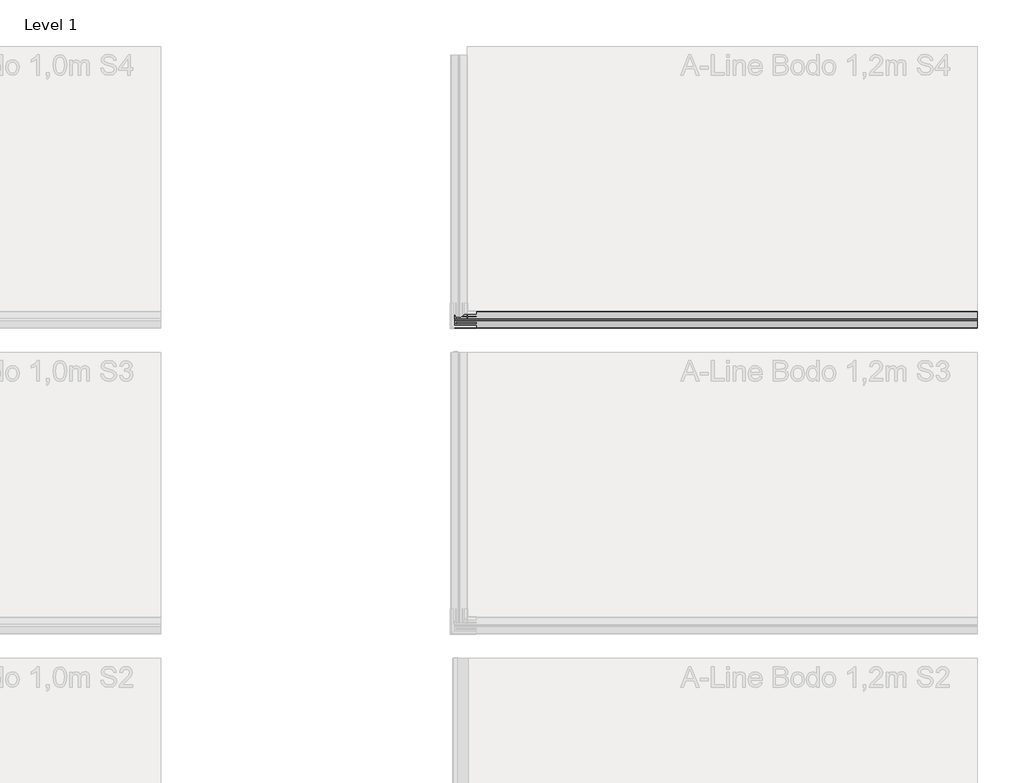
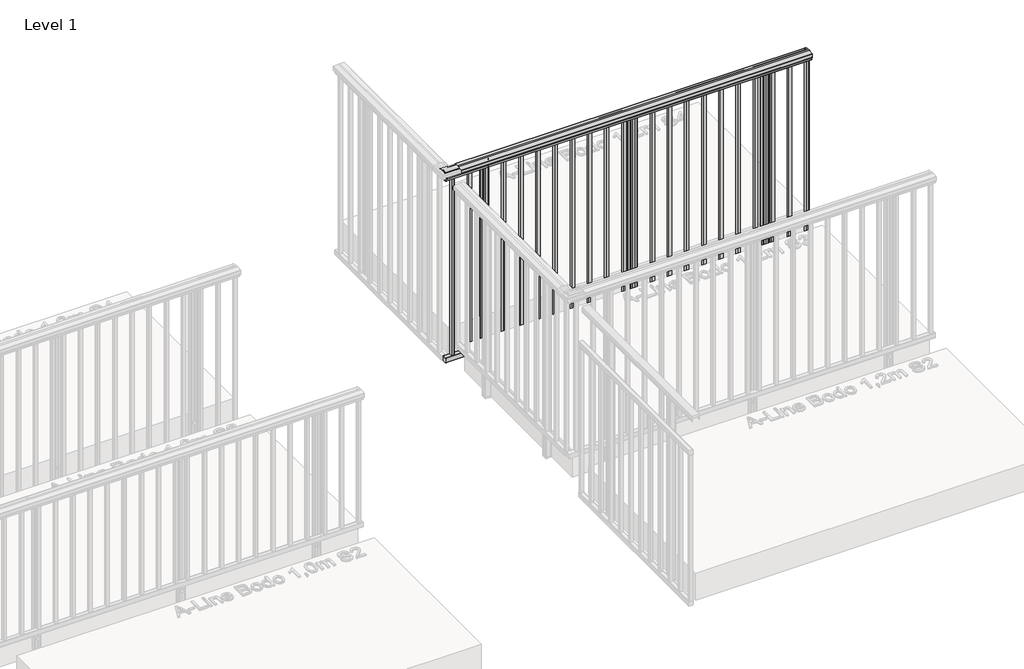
# One storey, part 15 of 66: 1 railing.
"""IFC4 building model written with IfcOpenShell, lengths in millimetres."""

from ifc_helpers import new_model, si_unit, point, frame, frame_2d, origin, place, context, project, spatial, polyline, circle_curve, trimmed, segment, composite_curve, outline, extrude, element, save

model = new_model("IFC4")

# Units and contexts
model_context = context("Model", 3, world=origin())
ifc_project = project(units=[si_unit("LENGTHUNIT", "METRE", prefix="MILLI")], contexts=[model_context])

# Site, building, storey
site = spatial("IfcSite", under=ifc_project)
building = spatial("IfcBuilding", under=site)
storey = spatial("IfcBuildingStorey", under=building, Name="Level 1", Elevation=0.0)

# Railing
placement = place(None, origin())
element("IfcRailing", 1, ObjectType="A-Line Bodo 1,2m S4", at=placement, inside=storey, context=model_context, shape_type="SweptSolid", body=[
    extrude(outline(composite_curve([segment(polyline([(-13150.7565959, 1170.6825033), (-13150.7565959, 1191.2139911)]), True, "CONTINUOUS"), segment(trimmed(circle_curve(frame_2d((-13147.7565959, 1191.2139911)), 3.0), [point((-13150.7565959, 1191.2139911))], [point((-13148.8230873, 1194.0180233))], False, "CARTESIAN"), True, "CONTINUOUS"), segment(trimmed(circle_curve(frame_2d((-13116.2565959, 1108.3938053)), 91.6083133), [point((-13148.8230873, 1194.0180233))], [point((-13116.2565959, 1200.0021186))], False, "CARTESIAN"), True, "CONTINUOUS"), segment(polyline([(-13116.2565959, 1200.0021186), (-13103.2565959, 1200.0021186)]), True, "CONTINUOUS"), segment(trimmed(circle_curve(frame_2d((-13103.2565959, 1108.3938053)), 91.6083133), [point((-13103.2565959, 1200.0021186))], [point((-13070.6901046, 1194.0180233))], False, "CARTESIAN"), True, "CONTINUOUS"), segment(trimmed(circle_curve(frame_2d((-13071.7565959, 1191.2139911)), 3.0), [point((-13070.6901046, 1194.0180233))], [point((-13068.7565959, 1191.2139911))], False, "CARTESIAN"), True, "CONTINUOUS"), segment(polyline([(-13068.7565959, 1191.2139911), (-13068.7967883, 1170.5325033), (-13069.4115714, 1169.9177203), (-13068.7565959, 1169.2627449), (-13068.7565959, 1165.5021186)]), True, "CONTINUOUS"), segment(trimmed(circle_curve(frame_2d((-13069.2565959, 1165.5021186)), 0.5), [point((-13068.7565959, 1165.5021186))], [point((-13069.2565959, 1165.0021186))], False, "CARTESIAN"), True, "CONTINUOUS"), segment(polyline([(-13069.2565959, 1165.0021186), (-13070.2565959, 1165.0021186), (-13070.2565959, 1179.5021186)]), True, "CONTINUOUS"), segment(trimmed(circle_curve(frame_2d((-13070.7565959, 1179.5021186)), 0.5), [point((-13070.2565959, 1179.5021186))], [point((-13070.7565959, 1180.0021186))], True, "CARTESIAN"), True, "CONTINUOUS"), segment(polyline([(-13070.7565959, 1180.0021186), (-13148.7565959, 1180.0021186)]), True, "CONTINUOUS"), segment(trimmed(circle_curve(frame_2d((-13148.7565959, 1179.5021186)), 0.5), [point((-13148.7565959, 1180.0021186))], [point((-13149.2565959, 1179.5021186))], True, "CARTESIAN"), True, "CONTINUOUS"), segment(polyline([(-13149.2565959, 1179.5021186), (-13149.2565959, 1165.0021186), (-13150.2565959, 1165.0021186)]), True, "CONTINUOUS"), segment(trimmed(circle_curve(frame_2d((-13150.2565959, 1165.5021186)), 0.5), [point((-13150.2565959, 1165.0021186))], [point((-13150.7565959, 1165.5021186))], False, "CARTESIAN"), True, "CONTINUOUS"), segment(polyline([(-13150.7565959, 1165.5021186), (-13150.7164036, 1169.4717338), (-13150.131115, 1170.0570224), (-13150.7565959, 1170.6825033)]), True, "CONTINUOUS")], self_intersect=False)), frame((8444.0547322, 0.0, 0.0), z_axis=(1.0, 0.0, 0.0), x_axis=(0.0, 1.0, 0.0)), (0.0, 0.0, 1.0), 2560.0),
    extrude(outline(composite_curve([segment(trimmed(circle_curve(frame_2d((-13139.305892, 1177.0)), 1.0), [point((-13140.305892, 1177.0))], [point((-13139.305892, 1178.0))], False, "CARTESIAN"), True, "CONTINUOUS"), segment(polyline([(-13139.305892, 1178.0), (-13112.205892, 1178.0)]), True, "CONTINUOUS"), segment(trimmed(circle_curve(frame_2d((-13112.205892, 1177.0)), 1.0), [point((-13112.205892, 1178.0))], [point((-13111.205892, 1177.0))], False, "CARTESIAN"), True, "CONTINUOUS"), segment(polyline([(-13111.205892, 1177.0), (-13111.205892, 1144.8)]), True, "CONTINUOUS"), segment(trimmed(circle_curve(frame_2d((-13112.205892, 1144.8)), 1.0), [point((-13111.205892, 1144.8))], [point((-13112.205892, 1143.8))], False, "CARTESIAN"), True, "CONTINUOUS"), segment(polyline([(-13112.205892, 1143.8), (-13139.305892, 1143.8)]), True, "CONTINUOUS"), segment(trimmed(circle_curve(frame_2d((-13139.305892, 1144.8)), 1.0), [point((-13139.305892, 1143.8))], [point((-13140.305892, 1144.8))], False, "CARTESIAN"), True, "CONTINUOUS"), segment(polyline([(-13140.305892, 1144.8), (-13140.305892, 1177.0)]), True, "CONTINUOUS")], self_intersect=False)), frame((8444.0547322, 0.0, 0.0), z_axis=(1.0, 0.0, 0.0), x_axis=(0.0, 1.0, 0.0)), (0.0, 0.0, 1.0), 2560.0),
    extrude(outline(composite_curve([segment(polyline([(-13139.305892, -165.8), (-13112.205892, -165.8)]), True, "CONTINUOUS"), segment(trimmed(circle_curve(frame_2d((-13112.205892, -166.8)), 1.0), [point((-13112.205892, -165.8))], [point((-13111.205892, -166.8))], False, "CARTESIAN"), True, "CONTINUOUS"), segment(polyline([(-13111.205892, -166.8), (-13111.205892, -199.0)]), True, "CONTINUOUS"), segment(trimmed(circle_curve(frame_2d((-13112.205892, -199.0)), 1.0), [point((-13111.205892, -199.0))], [point((-13112.205892, -200.0))], False, "CARTESIAN"), True, "CONTINUOUS"), segment(polyline([(-13112.205892, -200.0), (-13139.305892, -200.0)]), True, "CONTINUOUS"), segment(trimmed(circle_curve(frame_2d((-13139.305892, -199.0)), 1.0), [point((-13139.305892, -200.0))], [point((-13140.305892, -199.0))], False, "CARTESIAN"), True, "CONTINUOUS"), segment(polyline([(-13140.305892, -199.0), (-13140.305892, -166.8)]), True, "CONTINUOUS"), segment(trimmed(circle_curve(frame_2d((-13139.305892, -166.8)), 1.0), [point((-13140.305892, -166.8))], [point((-13139.305892, -165.8))], False, "CARTESIAN"), True, "CONTINUOUS")], self_intersect=False)), frame((8444.0547322, 0.0, 0.0), z_axis=(1.0, 0.0, 0.0), x_axis=(0.0, 1.0, 0.0)), (0.0, 0.0, 1.0), 2560.0),
    extrude(outline(polyline([(10969.0547322, -13135.755892), (10969.0547322, -13115.755892), (10989.0547322, -13115.755892), (10989.0547322, -13135.755892), (10969.0547322, -13135.755892)]), holes=[polyline([(10971.0547322, -13133.755892), (10987.0547322, -13133.755892), (10987.0547322, -13117.755892), (10971.0547322, -13117.755892), (10971.0547322, -13133.755892)])]), frame((0.0, 0.0, -166.0), z_axis=(0.0, 0.0, 1.0), x_axis=(1.0, 0.0, 0.0)), (0.0, 0.0, 1.0), 1310.0),
    extrude(outline(polyline([(10849.0547322, -13135.755892), (10849.0547322, -13115.755892), (10869.0547322, -13115.755892), (10869.0547322, -13135.755892), (10849.0547322, -13135.755892)]), holes=[polyline([(10851.0547322, -13133.755892), (10867.0547322, -13133.755892), (10867.0547322, -13117.755892), (10851.0547322, -13117.755892), (10851.0547322, -13133.755892)])]), frame((0.0, 0.0, -166.0), z_axis=(0.0, 0.0, 1.0), x_axis=(1.0, 0.0, 0.0)), (0.0, 0.0, 1.0), 1310.0),
    extrude(outline(polyline([(10729.0547322, -13135.755892), (10729.0547322, -13115.755892), (10749.0547322, -13115.755892), (10749.0547322, -13135.755892), (10729.0547322, -13135.755892)]), holes=[polyline([(10731.0547322, -13133.755892), (10747.0547322, -13133.755892), (10747.0547322, -13117.755892), (10731.0547322, -13117.755892), (10731.0547322, -13133.755892)])]), frame((0.0, 0.0, -166.0), z_axis=(0.0, 0.0, 1.0), x_axis=(1.0, 0.0, 0.0)), (0.0, 0.0, 1.0), 1310.0),
    extrude(outline(polyline([(10609.0547322, -13135.755892), (10609.0547322, -13115.755892), (10629.0547322, -13115.755892), (10629.0547322, -13135.755892), (10609.0547322, -13135.755892)]), holes=[polyline([(10611.0547322, -13133.755892), (10627.0547322, -13133.755892), (10627.0547322, -13117.755892), (10611.0547322, -13117.755892), (10611.0547322, -13133.755892)])]), frame((0.0, 0.0, -166.0), z_axis=(0.0, 0.0, 1.0), x_axis=(1.0, 0.0, 0.0)), (0.0, 0.0, 1.0), 1310.0),
    extrude(outline(polyline([(10489.0547322, -13135.755892), (10489.0547322, -13115.755892), (10509.0547322, -13115.755892), (10509.0547322, -13135.755892), (10489.0547322, -13135.755892)]), holes=[polyline([(10491.0547322, -13133.755892), (10507.0547322, -13133.755892), (10507.0547322, -13117.755892), (10491.0547322, -13117.755892), (10491.0547322, -13133.755892)])]), frame((0.0, 0.0, -166.0), z_axis=(0.0, 0.0, 1.0), x_axis=(1.0, 0.0, 0.0)), (0.0, 0.0, 1.0), 1310.0),
    extrude(outline(polyline([(10369.0547322, -13135.755892), (10369.0547322, -13115.755892), (10389.0547322, -13115.755892), (10389.0547322, -13135.755892), (10369.0547322, -13135.755892)]), holes=[polyline([(10371.0547322, -13133.755892), (10387.0547322, -13133.755892), (10387.0547322, -13117.755892), (10371.0547322, -13117.755892), (10371.0547322, -13133.755892)])]), frame((0.0, 0.0, -166.0), z_axis=(0.0, 0.0, 1.0), x_axis=(1.0, 0.0, 0.0)), (0.0, 0.0, 1.0), 1310.0),
    extrude(outline(polyline([(10249.0547322, -13135.755892), (10249.0547322, -13115.755892), (10269.0547322, -13115.755892), (10269.0547322, -13135.755892), (10249.0547322, -13135.755892)]), holes=[polyline([(10251.0547322, -13133.755892), (10267.0547322, -13133.755892), (10267.0547322, -13117.755892), (10251.0547322, -13117.755892), (10251.0547322, -13133.755892)])]), frame((0.0, 0.0, -166.0), z_axis=(0.0, 0.0, 1.0), x_axis=(1.0, 0.0, 0.0)), (0.0, 0.0, 1.0), 1310.0),
    extrude(outline(polyline([(10129.0547322, -13135.755892), (10129.0547322, -13115.755892), (10149.0547322, -13115.755892), (10149.0547322, -13135.755892), (10129.0547322, -13135.755892)]), holes=[polyline([(10131.0547322, -13133.755892), (10147.0547322, -13133.755892), (10147.0547322, -13117.755892), (10131.0547322, -13117.755892), (10131.0547322, -13133.755892)])]), frame((0.0, 0.0, -166.0), z_axis=(0.0, 0.0, 1.0), x_axis=(1.0, 0.0, 0.0)), (0.0, 0.0, 1.0), 1310.0),
    extrude(outline(polyline([(10009.0547322, -13135.755892), (10009.0547322, -13115.755892), (10029.0547322, -13115.755892), (10029.0547322, -13135.755892), (10009.0547322, -13135.755892)]), holes=[polyline([(10011.0547322, -13133.755892), (10027.0547322, -13133.755892), (10027.0547322, -13117.755892), (10011.0547322, -13117.755892), (10011.0547322, -13133.755892)])]), frame((0.0, 0.0, -166.0), z_axis=(0.0, 0.0, 1.0), x_axis=(1.0, 0.0, 0.0)), (0.0, 0.0, 1.0), 1310.0),
    extrude(outline(polyline([(9889.0547322, -13135.755892), (9889.0547322, -13115.755892), (9909.0547322, -13115.755892), (9909.0547322, -13135.755892), (9889.0547322, -13135.755892)]), holes=[polyline([(9891.0547322, -13133.755892), (9907.0547322, -13133.755892), (9907.0547322, -13117.755892), (9891.0547322, -13117.755892), (9891.0547322, -13133.755892)])]), frame((0.0, 0.0, -166.0), z_axis=(0.0, 0.0, 1.0), x_axis=(1.0, 0.0, 0.0)), (0.0, 0.0, 1.0), 1310.0),
    extrude(outline(polyline([(9769.0547322, -13135.755892), (9769.0547322, -13115.755892), (9789.0547322, -13115.755892), (9789.0547322, -13135.755892), (9769.0547322, -13135.755892)]), holes=[polyline([(9771.0547322, -13133.755892), (9787.0547322, -13133.755892), (9787.0547322, -13117.755892), (9771.0547322, -13117.755892), (9771.0547322, -13133.755892)])]), frame((0.0, 0.0, -166.0), z_axis=(0.0, 0.0, 1.0), x_axis=(1.0, 0.0, 0.0)), (0.0, 0.0, 1.0), 1310.0),
    extrude(outline(polyline([(9689.0547322, -13135.755892), (9689.0547322, -13115.755892), (9709.0547322, -13115.755892), (9709.0547322, -13135.755892), (9689.0547322, -13135.755892)]), holes=[polyline([(9691.0547322, -13133.755892), (9707.0547322, -13133.755892), (9707.0547322, -13117.755892), (9691.0547322, -13117.755892), (9691.0547322, -13133.755892)])]), frame((0.0, 0.0, -166.0), z_axis=(0.0, 0.0, 1.0), x_axis=(1.0, 0.0, 0.0)), (0.0, 0.0, 1.0), 1310.0),
    extrude(outline(polyline([(9569.0547322, -13135.755892), (9569.0547322, -13115.755892), (9589.0547322, -13115.755892), (9589.0547322, -13135.755892), (9569.0547322, -13135.755892)]), holes=[polyline([(9571.0547322, -13133.755892), (9587.0547322, -13133.755892), (9587.0547322, -13117.755892), (9571.0547322, -13117.755892), (9571.0547322, -13133.755892)])]), frame((0.0, 0.0, -166.0), z_axis=(0.0, 0.0, 1.0), x_axis=(1.0, 0.0, 0.0)), (0.0, 0.0, 1.0), 1310.0),
    extrude(outline(polyline([(9449.0547322, -13135.755892), (9449.0547322, -13115.755892), (9469.0547322, -13115.755892), (9469.0547322, -13135.755892), (9449.0547322, -13135.755892)]), holes=[polyline([(9451.0547322, -13133.755892), (9467.0547322, -13133.755892), (9467.0547322, -13117.755892), (9451.0547322, -13117.755892), (9451.0547322, -13133.755892)])]), frame((0.0, 0.0, -166.0), z_axis=(0.0, 0.0, 1.0), x_axis=(1.0, 0.0, 0.0)), (0.0, 0.0, 1.0), 1310.0),
    extrude(outline(polyline([(9329.0547322, -13135.755892), (9329.0547322, -13115.755892), (9349.0547322, -13115.755892), (9349.0547322, -13135.755892), (9329.0547322, -13135.755892)]), holes=[polyline([(9331.0547322, -13133.755892), (9347.0547322, -13133.755892), (9347.0547322, -13117.755892), (9331.0547322, -13117.755892), (9331.0547322, -13133.755892)])]), frame((0.0, 0.0, -166.0), z_axis=(0.0, 0.0, 1.0), x_axis=(1.0, 0.0, 0.0)), (0.0, 0.0, 1.0), 1310.0),
    extrude(outline(polyline([(9209.0547322, -13135.755892), (9209.0547322, -13115.755892), (9229.0547322, -13115.755892), (9229.0547322, -13135.755892), (9209.0547322, -13135.755892)]), holes=[polyline([(9211.0547322, -13133.755892), (9227.0547322, -13133.755892), (9227.0547322, -13117.755892), (9211.0547322, -13117.755892), (9211.0547322, -13133.755892)])]), frame((0.0, 0.0, -166.0), z_axis=(0.0, 0.0, 1.0), x_axis=(1.0, 0.0, 0.0)), (0.0, 0.0, 1.0), 1310.0),
    extrude(outline(polyline([(9089.0547322, -13135.755892), (9089.0547322, -13115.755892), (9109.0547322, -13115.755892), (9109.0547322, -13135.755892), (9089.0547322, -13135.755892)]), holes=[polyline([(9091.0547322, -13133.755892), (9107.0547322, -13133.755892), (9107.0547322, -13117.755892), (9091.0547322, -13117.755892), (9091.0547322, -13133.755892)])]), frame((0.0, 0.0, -166.0), z_axis=(0.0, 0.0, 1.0), x_axis=(1.0, 0.0, 0.0)), (0.0, 0.0, 1.0), 1310.0),
    extrude(outline(polyline([(8969.0547322, -13135.755892), (8969.0547322, -13115.755892), (8989.0547322, -13115.755892), (8989.0547322, -13135.755892), (8969.0547322, -13135.755892)]), holes=[polyline([(8971.0547322, -13133.755892), (8987.0547322, -13133.755892), (8987.0547322, -13117.755892), (8971.0547322, -13117.755892), (8971.0547322, -13133.755892)])]), frame((0.0, 0.0, -166.0), z_axis=(0.0, 0.0, 1.0), x_axis=(1.0, 0.0, 0.0)), (0.0, 0.0, 1.0), 1310.0),
    extrude(outline(polyline([(8849.0547322, -13135.755892), (8849.0547322, -13115.755892), (8869.0547322, -13115.755892), (8869.0547322, -13135.755892), (8849.0547322, -13135.755892)]), holes=[polyline([(8851.0547322, -13133.755892), (8867.0547322, -13133.755892), (8867.0547322, -13117.755892), (8851.0547322, -13117.755892), (8851.0547322, -13133.755892)])]), frame((0.0, 0.0, -166.0), z_axis=(0.0, 0.0, 1.0), x_axis=(1.0, 0.0, 0.0)), (0.0, 0.0, 1.0), 1310.0),
    extrude(outline(polyline([(8729.0547322, -13135.755892), (8729.0547322, -13115.755892), (8749.0547322, -13115.755892), (8749.0547322, -13135.755892), (8729.0547322, -13135.755892)]), holes=[polyline([(8731.0547322, -13133.755892), (8747.0547322, -13133.755892), (8747.0547322, -13117.755892), (8731.0547322, -13117.755892), (8731.0547322, -13133.755892)])]), frame((0.0, 0.0, -166.0), z_axis=(0.0, 0.0, 1.0), x_axis=(1.0, 0.0, 0.0)), (0.0, 0.0, 1.0), 1310.0),
    extrude(outline(polyline([(8609.0547322, -13135.755892), (8609.0547322, -13115.755892), (8629.0547322, -13115.755892), (8629.0547322, -13135.755892), (8609.0547322, -13135.755892)]), holes=[polyline([(8611.0547322, -13133.755892), (8627.0547322, -13133.755892), (8627.0547322, -13117.755892), (8611.0547322, -13117.755892), (8611.0547322, -13133.755892)])]), frame((0.0, 0.0, -166.0), z_axis=(0.0, 0.0, 1.0), x_axis=(1.0, 0.0, 0.0)), (0.0, 0.0, 1.0), 1310.0),
    extrude(outline(polyline([(8489.0547322, -13135.755892), (8489.0547322, -13115.755892), (8509.0547322, -13115.755892), (8509.0547322, -13135.755892), (8489.0547322, -13135.755892)]), holes=[polyline([(8491.0547322, -13133.755892), (8507.0547322, -13133.755892), (8507.0547322, -13117.755892), (8491.0547322, -13117.755892), (8491.0547322, -13133.755892)])]), frame((0.0, 0.0, -166.0), z_axis=(0.0, 0.0, 1.0), x_axis=(1.0, 0.0, 0.0)), (0.0, 0.0, 1.0), 1310.0),
    extrude(outline(composite_curve([segment(polyline([(9754.8575193, -13070.755892), (9771.8808192, -13070.755892)]), True, "CONTINUOUS"), segment(trimmed(circle_curve(frame_2d((9771.8808192, -13072.9298051)), 2.173913), [point((9771.8808192, -13070.755892))], [point((9774.0547322, -13072.9298051))], False, "CARTESIAN"), True, "CONTINUOUS"), segment(polyline([(9774.0547322, -13072.9298051), (9774.0547322, -13108.581979)]), True, "CONTINUOUS"), segment(trimmed(circle_curve(frame_2d((9771.8808192, -13108.581979)), 2.173913), [point((9774.0547322, -13108.581979))], [point((9771.8808192, -13110.755892))], False, "CARTESIAN"), True, "CONTINUOUS"), segment(polyline([(9771.8808192, -13110.755892), (9754.8225694, -13110.7209421), (9754.0547322, -13109.953105), (9753.2868951, -13110.7209421), (9736.2286453, -13110.755892)]), True, "CONTINUOUS"), segment(trimmed(circle_curve(frame_2d((9736.2286453, -13108.581979)), 2.173913), [point((9736.2286453, -13110.755892))], [point((9734.0547322, -13108.581979))], False, "CARTESIAN"), True, "CONTINUOUS"), segment(polyline([(9734.0547322, -13108.581979), (9734.0547322, -13072.9298051)]), True, "CONTINUOUS"), segment(trimmed(circle_curve(frame_2d((9736.2286453, -13072.9298051)), 2.173913), [point((9734.0547322, -13072.9298051))], [point((9736.2286452, -13070.755892))], False, "CARTESIAN"), True, "CONTINUOUS"), segment(polyline([(9736.2286452, -13070.755892), (9753.2868951, -13070.7908419), (9754.0547322, -13071.5586791), (9754.8575193, -13070.755892)]), True, "CONTINUOUS")], self_intersect=False)), frame((0.0, 0.0, -200.0), z_axis=(0.0, 0.0, 1.0), x_axis=(1.0, 0.0, 0.0)), (0.0, 0.0, 1.0), 10.0),
    extrude(outline(composite_curve([segment(trimmed(circle_curve(frame_2d((0.0, 12.0)), 12.0), [point((0.0, 23.9999999))], [point((0.0, 0.0))], False, "CARTESIAN"), True, "CONTINUOUS"), segment(trimmed(circle_curve(frame_2d((0.0, 12.0)), 12.0), [point((0.0, 0.0))], [point((0.0, 23.9999999))], False, "CARTESIAN"), True, "CONTINUOUS")], self_intersect=False)), frame((9742.0444554, -13113.8197212, -151.0), z_axis=(0.0004029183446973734, 0.9999999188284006, 0.0), x_axis=(0.0, 0.0, 1.0)), (0.0, 0.0, 1.0), 3.0757477),
    extrude(outline(composite_curve([segment(trimmed(circle_curve(frame_2d((0.0, 12.0)), 12.0), [point((0.0, 23.9999999))], [point((0.0, 0.0))], False, "CARTESIAN"), True, "CONTINUOUS"), segment(trimmed(circle_curve(frame_2d((0.0, 12.0)), 12.0), [point((0.0, 0.0))], [point((0.0, 23.9999999))], False, "CARTESIAN"), True, "CONTINUOUS")], self_intersect=False)), frame((9742.0444554, -13113.8197212, -50.0), z_axis=(0.0004029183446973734, 0.9999999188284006, 0.0), x_axis=(0.0, 0.0, 1.0)), (0.0, 0.0, 1.0), 3.0757477),
    extrude(outline(composite_curve([segment(trimmed(circle_curve(frame_2d((9736.2286453, -13072.9298051)), 2.173913), [point((9734.0547322, -13072.9298051))], [point((9736.2286453, -13070.755892))], False, "CARTESIAN"), True, "CONTINUOUS"), segment(polyline([(9736.2286453, -13070.755892), (9753.2868951, -13070.7908419), (9754.185167, -13071.1588463), (9754.9530042, -13070.755892), (9771.8808192, -13070.755892)]), True, "CONTINUOUS"), segment(trimmed(circle_curve(frame_2d((9771.8808192, -13072.9298051)), 2.173913), [point((9771.8808192, -13070.755892))], [point((9774.0547322, -13072.9298051))], False, "CARTESIAN"), True, "CONTINUOUS"), segment(polyline([(9774.0547322, -13072.9298051), (9774.0547322, -13108.581979)]), True, "CONTINUOUS"), segment(trimmed(circle_curve(frame_2d((9771.8808192, -13108.581979)), 2.173913), [point((9774.0547322, -13108.581979))], [point((9771.8808192, -13110.755892))], False, "CARTESIAN"), True, "CONTINUOUS"), segment(polyline([(9771.8808192, -13110.755892), (9754.8225694, -13110.7209421), (9754.0547322, -13109.953105), (9753.2868951, -13110.7209421), (9736.2286453, -13110.755892)]), True, "CONTINUOUS"), segment(trimmed(circle_curve(frame_2d((9736.2286453, -13108.581979)), 2.173913), [point((9736.2286453, -13110.755892))], [point((9734.0547322, -13108.581979))], False, "CARTESIAN"), True, "CONTINUOUS"), segment(polyline([(9734.0547322, -13108.581979), (9734.0547322, -13072.9298051)]), True, "CONTINUOUS")], self_intersect=False), holes=[composite_curve([segment(polyline([(9737.5329931, -13075.1037181), (9737.5329931, -13106.4080659)]), True, "CONTINUOUS"), segment(trimmed(circle_curve(frame_2d((9738.4025583, -13106.4080659)), 0.8695652), [point((9737.5329931, -13106.4080659))], [point((9738.4025583, -13107.2776312))], True, "CARTESIAN"), True, "CONTINUOUS"), segment(polyline([(9738.4025583, -13107.2776312), (9769.7069062, -13107.2776312)]), True, "CONTINUOUS"), segment(trimmed(circle_curve(frame_2d((9769.7069062, -13106.4080659)), 0.8695652), [point((9769.7069062, -13107.2776312))], [point((9770.5764714, -13106.4080659))], True, "CARTESIAN"), True, "CONTINUOUS"), segment(polyline([(9770.5764714, -13106.4080659), (9770.5764714, -13075.1037181)]), True, "CONTINUOUS"), segment(trimmed(circle_curve(frame_2d((9769.7069062, -13075.1037181)), 0.8695652), [point((9770.5764714, -13075.1037181))], [point((9769.7069062, -13074.2341529))], True, "CARTESIAN"), True, "CONTINUOUS"), segment(polyline([(9769.7069062, -13074.2341529), (9738.4025583, -13074.2341529)]), True, "CONTINUOUS"), segment(trimmed(circle_curve(frame_2d((9738.4025583, -13075.1037181)), 0.8695652), [point((9738.4025583, -13074.2341529))], [point((9737.5329931, -13075.1037181))], True, "CARTESIAN"), True, "CONTINUOUS")], self_intersect=False)]), frame((0.0, 0.0, -190.0), z_axis=(0.0, 0.0, 1.0), x_axis=(1.0, 0.0, 0.0)), (0.0, 0.0, 1.0), 1370.0),
    extrude(outline(composite_curve([segment(polyline([(10704.8575193, -13070.755892), (10721.8808192, -13070.755892)]), True, "CONTINUOUS"), segment(trimmed(circle_curve(frame_2d((10721.8808192, -13072.9298051)), 2.173913), [point((10721.8808192, -13070.755892))], [point((10724.0547322, -13072.9298051))], False, "CARTESIAN"), True, "CONTINUOUS"), segment(polyline([(10724.0547322, -13072.9298051), (10724.0547322, -13108.581979)]), True, "CONTINUOUS"), segment(trimmed(circle_curve(frame_2d((10721.8808192, -13108.581979)), 2.173913), [point((10724.0547322, -13108.581979))], [point((10721.8808192, -13110.755892))], False, "CARTESIAN"), True, "CONTINUOUS"), segment(polyline([(10721.8808192, -13110.755892), (10704.8225694, -13110.7209421), (10704.0547322, -13109.953105), (10703.2868951, -13110.7209421), (10686.2286453, -13110.755892)]), True, "CONTINUOUS"), segment(trimmed(circle_curve(frame_2d((10686.2286453, -13108.581979)), 2.173913), [point((10686.2286453, -13110.755892))], [point((10684.0547322, -13108.581979))], False, "CARTESIAN"), True, "CONTINUOUS"), segment(polyline([(10684.0547322, -13108.581979), (10684.0547322, -13072.9298051)]), True, "CONTINUOUS"), segment(trimmed(circle_curve(frame_2d((10686.2286453, -13072.9298051)), 2.173913), [point((10684.0547322, -13072.9298051))], [point((10686.2286452, -13070.755892))], False, "CARTESIAN"), True, "CONTINUOUS"), segment(polyline([(10686.2286452, -13070.755892), (10703.2868951, -13070.7908419), (10704.0547322, -13071.5586791), (10704.8575193, -13070.755892)]), True, "CONTINUOUS")], self_intersect=False)), frame((0.0, 0.0, -200.0), z_axis=(0.0, 0.0, 1.0), x_axis=(1.0, 0.0, 0.0)), (0.0, 0.0, 1.0), 10.0),
    extrude(outline(composite_curve([segment(trimmed(circle_curve(frame_2d((0.0, 12.0)), 12.0), [point((0.0, 23.9999999))], [point((0.0, 0.0))], False, "CARTESIAN"), True, "CONTINUOUS"), segment(trimmed(circle_curve(frame_2d((0.0, 12.0)), 12.0), [point((0.0, 0.0))], [point((0.0, 23.9999999))], False, "CARTESIAN"), True, "CONTINUOUS")], self_intersect=False)), frame((10692.0444554, -13113.8197212, -151.0), z_axis=(0.00040291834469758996, 0.9999999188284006, 0.0), x_axis=(0.0, 0.0, 1.0)), (0.0, 0.0, 1.0), 3.0757477),
    extrude(outline(composite_curve([segment(trimmed(circle_curve(frame_2d((0.0, 12.0)), 12.0), [point((0.0, 23.9999999))], [point((0.0, 0.0))], False, "CARTESIAN"), True, "CONTINUOUS"), segment(trimmed(circle_curve(frame_2d((0.0, 12.0)), 12.0), [point((0.0, 0.0))], [point((0.0, 23.9999999))], False, "CARTESIAN"), True, "CONTINUOUS")], self_intersect=False)), frame((10692.0444554, -13113.8197212, -50.0), z_axis=(0.00040291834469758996, 0.9999999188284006, 0.0), x_axis=(0.0, 0.0, 1.0)), (0.0, 0.0, 1.0), 3.0757477),
    extrude(outline(composite_curve([segment(trimmed(circle_curve(frame_2d((10686.2286453, -13072.9298051)), 2.173913), [point((10684.0547322, -13072.9298051))], [point((10686.2286453, -13070.755892))], False, "CARTESIAN"), True, "CONTINUOUS"), segment(polyline([(10686.2286453, -13070.755892), (10703.2868951, -13070.7908419), (10704.185167, -13071.1588463), (10704.9530042, -13070.755892), (10721.8808192, -13070.755892)]), True, "CONTINUOUS"), segment(trimmed(circle_curve(frame_2d((10721.8808192, -13072.9298051)), 2.173913), [point((10721.8808192, -13070.755892))], [point((10724.0547322, -13072.9298051))], False, "CARTESIAN"), True, "CONTINUOUS"), segment(polyline([(10724.0547322, -13072.9298051), (10724.0547322, -13108.581979)]), True, "CONTINUOUS"), segment(trimmed(circle_curve(frame_2d((10721.8808192, -13108.581979)), 2.173913), [point((10724.0547322, -13108.581979))], [point((10721.8808192, -13110.755892))], False, "CARTESIAN"), True, "CONTINUOUS"), segment(polyline([(10721.8808192, -13110.755892), (10704.8225694, -13110.7209421), (10704.0547322, -13109.953105), (10703.2868951, -13110.7209421), (10686.2286453, -13110.755892)]), True, "CONTINUOUS"), segment(trimmed(circle_curve(frame_2d((10686.2286453, -13108.581979)), 2.173913), [point((10686.2286453, -13110.755892))], [point((10684.0547322, -13108.581979))], False, "CARTESIAN"), True, "CONTINUOUS"), segment(polyline([(10684.0547322, -13108.581979), (10684.0547322, -13072.9298051)]), True, "CONTINUOUS")], self_intersect=False), holes=[composite_curve([segment(polyline([(10687.5329931, -13075.1037181), (10687.5329931, -13106.4080659)]), True, "CONTINUOUS"), segment(trimmed(circle_curve(frame_2d((10688.4025583, -13106.4080659)), 0.8695652), [point((10687.5329931, -13106.4080659))], [point((10688.4025583, -13107.2776312))], True, "CARTESIAN"), True, "CONTINUOUS"), segment(polyline([(10688.4025583, -13107.2776312), (10719.7069062, -13107.2776312)]), True, "CONTINUOUS"), segment(trimmed(circle_curve(frame_2d((10719.7069062, -13106.4080659)), 0.8695652), [point((10719.7069062, -13107.2776312))], [point((10720.5764714, -13106.4080659))], True, "CARTESIAN"), True, "CONTINUOUS"), segment(polyline([(10720.5764714, -13106.4080659), (10720.5764714, -13075.1037181)]), True, "CONTINUOUS"), segment(trimmed(circle_curve(frame_2d((10719.7069062, -13075.1037181)), 0.8695652), [point((10720.5764714, -13075.1037181))], [point((10719.7069062, -13074.2341529))], True, "CARTESIAN"), True, "CONTINUOUS"), segment(polyline([(10719.7069062, -13074.2341529), (10688.4025583, -13074.2341529)]), True, "CONTINUOUS"), segment(trimmed(circle_curve(frame_2d((10688.4025583, -13075.1037181)), 0.8695652), [point((10688.4025583, -13074.2341529))], [point((10687.5329931, -13075.1037181))], True, "CARTESIAN"), True, "CONTINUOUS")], self_intersect=False)]), frame((0.0, 0.0, -190.0), z_axis=(0.0, 0.0, 1.0), x_axis=(1.0, 0.0, 0.0)), (0.0, 0.0, 1.0), 1371.0),
    extrude(outline(composite_curve([segment(polyline([(8744.8575193, -13070.755892), (8761.8808192, -13070.755892)]), True, "CONTINUOUS"), segment(trimmed(circle_curve(frame_2d((8761.8808192, -13072.9298051)), 2.173913), [point((8761.8808192, -13070.755892))], [point((8764.0547322, -13072.9298051))], False, "CARTESIAN"), True, "CONTINUOUS"), segment(polyline([(8764.0547322, -13072.9298051), (8764.0547322, -13108.581979)]), True, "CONTINUOUS"), segment(trimmed(circle_curve(frame_2d((8761.8808192, -13108.581979)), 2.173913), [point((8764.0547322, -13108.581979))], [point((8761.8808192, -13110.755892))], False, "CARTESIAN"), True, "CONTINUOUS"), segment(polyline([(8761.8808192, -13110.755892), (8744.8225694, -13110.7209421), (8744.0547322, -13109.953105), (8743.2868951, -13110.7209421), (8726.2286453, -13110.755892)]), True, "CONTINUOUS"), segment(trimmed(circle_curve(frame_2d((8726.2286453, -13108.581979)), 2.173913), [point((8726.2286453, -13110.755892))], [point((8724.0547322, -13108.581979))], False, "CARTESIAN"), True, "CONTINUOUS"), segment(polyline([(8724.0547322, -13108.581979), (8724.0547322, -13072.9298051)]), True, "CONTINUOUS"), segment(trimmed(circle_curve(frame_2d((8726.2286453, -13072.9298051)), 2.173913), [point((8724.0547322, -13072.9298051))], [point((8726.2286452, -13070.755892))], False, "CARTESIAN"), True, "CONTINUOUS"), segment(polyline([(8726.2286452, -13070.755892), (8743.2868951, -13070.7908419), (8744.0547322, -13071.5586791), (8744.8575193, -13070.755892)]), True, "CONTINUOUS")], self_intersect=False)), frame((0.0, 0.0, -200.0), z_axis=(0.0, 0.0, 1.0), x_axis=(1.0, 0.0, 0.0)), (0.0, 0.0, 1.0), 10.0),
    extrude(outline(composite_curve([segment(trimmed(circle_curve(frame_2d((0.0, 12.0)), 12.0), [point((0.0, 23.9999999))], [point((0.0, 0.0))], False, "CARTESIAN"), True, "CONTINUOUS"), segment(trimmed(circle_curve(frame_2d((0.0, 12.0)), 12.0), [point((0.0, 0.0))], [point((0.0, 23.9999999))], False, "CARTESIAN"), True, "CONTINUOUS")], self_intersect=False)), frame((8732.0444554, -13113.8197212, -151.0), z_axis=(0.0004029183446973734, 0.9999999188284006, 0.0), x_axis=(0.0, 0.0, 1.0)), (0.0, 0.0, 1.0), 3.0757477),
    extrude(outline(composite_curve([segment(trimmed(circle_curve(frame_2d((0.0, 12.0)), 12.0), [point((0.0, 23.9999999))], [point((0.0, 0.0))], False, "CARTESIAN"), True, "CONTINUOUS"), segment(trimmed(circle_curve(frame_2d((0.0, 12.0)), 12.0), [point((0.0, 0.0))], [point((0.0, 23.9999999))], False, "CARTESIAN"), True, "CONTINUOUS")], self_intersect=False)), frame((8732.0444554, -13113.8197212, -50.0), z_axis=(0.0004029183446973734, 0.9999999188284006, 0.0), x_axis=(0.0, 0.0, 1.0)), (0.0, 0.0, 1.0), 3.0757477),
    extrude(outline(composite_curve([segment(trimmed(circle_curve(frame_2d((8726.2286453, -13072.9298051)), 2.173913), [point((8724.0547322, -13072.9298051))], [point((8726.2286453, -13070.755892))], False, "CARTESIAN"), True, "CONTINUOUS"), segment(polyline([(8726.2286453, -13070.755892), (8743.2868951, -13070.7908419), (8744.185167, -13071.1588463), (8744.9530042, -13070.755892), (8761.8808192, -13070.755892)]), True, "CONTINUOUS"), segment(trimmed(circle_curve(frame_2d((8761.8808192, -13072.9298051)), 2.173913), [point((8761.8808192, -13070.755892))], [point((8764.0547322, -13072.9298051))], False, "CARTESIAN"), True, "CONTINUOUS"), segment(polyline([(8764.0547322, -13072.9298051), (8764.0547322, -13108.581979)]), True, "CONTINUOUS"), segment(trimmed(circle_curve(frame_2d((8761.8808192, -13108.581979)), 2.173913), [point((8764.0547322, -13108.581979))], [point((8761.8808192, -13110.755892))], False, "CARTESIAN"), True, "CONTINUOUS"), segment(polyline([(8761.8808192, -13110.755892), (8744.8225694, -13110.7209421), (8744.0547322, -13109.953105), (8743.2868951, -13110.7209421), (8726.2286453, -13110.755892)]), True, "CONTINUOUS"), segment(trimmed(circle_curve(frame_2d((8726.2286453, -13108.581979)), 2.173913), [point((8726.2286453, -13110.755892))], [point((8724.0547322, -13108.581979))], False, "CARTESIAN"), True, "CONTINUOUS"), segment(polyline([(8724.0547322, -13108.581979), (8724.0547322, -13072.9298051)]), True, "CONTINUOUS")], self_intersect=False), holes=[composite_curve([segment(polyline([(8727.5329931, -13075.1037181), (8727.5329931, -13106.4080659)]), True, "CONTINUOUS"), segment(trimmed(circle_curve(frame_2d((8728.4025583, -13106.4080659)), 0.8695652), [point((8727.5329931, -13106.4080659))], [point((8728.4025583, -13107.2776312))], True, "CARTESIAN"), True, "CONTINUOUS"), segment(polyline([(8728.4025583, -13107.2776312), (8759.7069062, -13107.2776312)]), True, "CONTINUOUS"), segment(trimmed(circle_curve(frame_2d((8759.7069062, -13106.4080659)), 0.8695652), [point((8759.7069062, -13107.2776312))], [point((8760.5764714, -13106.4080659))], True, "CARTESIAN"), True, "CONTINUOUS"), segment(polyline([(8760.5764714, -13106.4080659), (8760.5764714, -13075.1037181)]), True, "CONTINUOUS"), segment(trimmed(circle_curve(frame_2d((8759.7069062, -13075.1037181)), 0.8695652), [point((8760.5764714, -13075.1037181))], [point((8759.7069062, -13074.2341529))], True, "CARTESIAN"), True, "CONTINUOUS"), segment(polyline([(8759.7069062, -13074.2341529), (8728.4025583, -13074.2341529)]), True, "CONTINUOUS"), segment(trimmed(circle_curve(frame_2d((8728.4025583, -13075.1037181)), 0.8695652), [point((8728.4025583, -13074.2341529))], [point((8727.5329931, -13075.1037181))], True, "CARTESIAN"), True, "CONTINUOUS")], self_intersect=False)]), frame((0.0, 0.0, -190.0), z_axis=(0.0, 0.0, 1.0), x_axis=(1.0, 0.0, 0.0)), (0.0, 0.0, 1.0), 1371.0),
])

save(model, "model.ifc")
